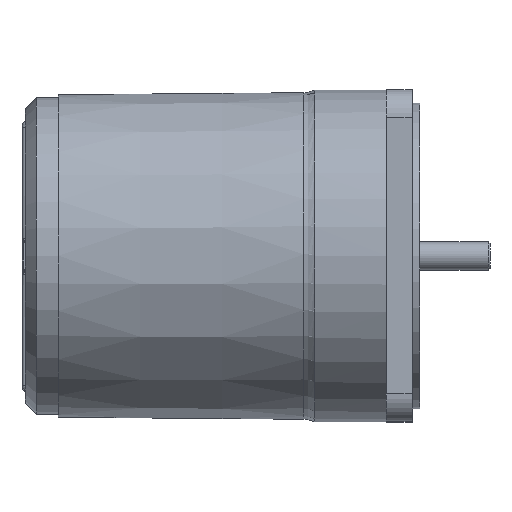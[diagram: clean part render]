
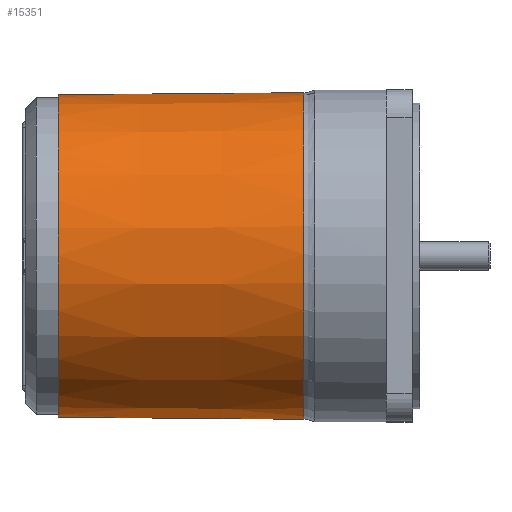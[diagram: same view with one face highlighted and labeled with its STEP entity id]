
A CAD part, top view. The second image highlights one B-rep face of the part: STEP entity #15351.
In plain terms, the highlighted conical face has half-angle 0.48 degrees and reference radius 44.029 mm.
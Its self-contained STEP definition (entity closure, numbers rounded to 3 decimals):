
#104=B_SPLINE_CURVE_WITH_KNOTS('',3,(#25532,#25533,#25534,#25535),
 .UNSPECIFIED.,.F.,.F.,(4,4),(3.256,3.306),
 .UNSPECIFIED.);
#105=B_SPLINE_CURVE_WITH_KNOTS('',3,(#25537,#25538,#25539,#25540),
 .UNSPECIFIED.,.F.,.F.,(4,4),(-3.256,0.),.UNSPECIFIED.);
#109=B_SPLINE_CURVE_WITH_KNOTS('',3,(#25619,#25620,#25621,#25622),
 .UNSPECIFIED.,.F.,.F.,(4,4),(-6.954,-3.698),
 .UNSPECIFIED.);
#110=B_SPLINE_CURVE_WITH_KNOTS('',3,(#25623,#25624,#25625,#25626),
 .UNSPECIFIED.,.F.,.F.,(4,4),(3.648,3.698),
 .UNSPECIFIED.);
#334=FACE_BOUND('',#2958,.T.);
#383=CONICAL_SURFACE('',#16677,44.029,0.48);
#1217=CIRCLE('',#16661,44.031);
#1225=CIRCLE('',#16678,44.308);
#1226=CIRCLE('',#16679,43.75);
#2012=FACE_OUTER_BOUND('',#2957,.T.);
#2957=EDGE_LOOP('',(#12330,#12331,#12332,#12333,#12334,#12335));
#2958=EDGE_LOOP('',(#12336));
#6774=VERTEX_POINT('',#25182);
#6780=VERTEX_POINT('',#25296);
#6795=VERTEX_POINT('',#25531);
#6796=VERTEX_POINT('',#25536);
#6801=VERTEX_POINT('',#25616);
#6802=VERTEX_POINT('',#25618);
#6806=VERTEX_POINT('',#25679);
#8671=EDGE_CURVE('',#6774,#6780,#1217,.T.);
#8694=EDGE_CURVE('',#6795,#6780,#104,.T.);
#8695=EDGE_CURVE('',#6795,#6796,#105,.T.);
#8705=EDGE_CURVE('',#6801,#6802,#109,.T.);
#8706=EDGE_CURVE('',#6774,#6802,#110,.T.);
#8713=EDGE_CURVE('',#6796,#6801,#1225,.T.);
#8714=EDGE_CURVE('',#6806,#6806,#1226,.T.);
#12330=ORIENTED_EDGE('',*,*,#8706,.T.);
#12331=ORIENTED_EDGE('',*,*,#8705,.F.);
#12332=ORIENTED_EDGE('',*,*,#8713,.F.);
#12333=ORIENTED_EDGE('',*,*,#8695,.F.);
#12334=ORIENTED_EDGE('',*,*,#8694,.T.);
#12335=ORIENTED_EDGE('',*,*,#8671,.F.);
#12336=ORIENTED_EDGE('',*,*,#8714,.T.);
#15351=ADVANCED_FACE('',(#2012,#334),#383,.T.);
#16661=AXIS2_PLACEMENT_3D('',#25297,#20161,#20162);
#16677=AXIS2_PLACEMENT_3D('',#25677,#20205,#20206);
#16678=AXIS2_PLACEMENT_3D('',#25678,#20207,#20208);
#16679=AXIS2_PLACEMENT_3D('',#25680,#20209,#20210);
#20161=DIRECTION('center_axis',(1.,0.,0.));
#20162=DIRECTION('ref_axis',(0.,0.,-1.));
#20205=DIRECTION('center_axis',(1.,0.,0.));
#20206=DIRECTION('ref_axis',(0.,1.,0.));
#20207=DIRECTION('center_axis',(1.,0.,0.));
#20208=DIRECTION('ref_axis',(0.,1.,0.));
#20209=DIRECTION('center_axis',(1.,0.,0.));
#20210=DIRECTION('ref_axis',(0.,1.,0.));
#25182=CARTESIAN_POINT('',(42.504,-29.21,-32.947));
#25296=CARTESIAN_POINT('',(42.504,29.21,-32.947));
#25297=CARTESIAN_POINT('Origin',(42.504,0.,
0.));
#25531=CARTESIAN_POINT('',(43.,29.21,-32.952));
#25532=CARTESIAN_POINT('Ctrl Pts',(43.,29.21,-32.952));
#25533=CARTESIAN_POINT('Ctrl Pts',(42.835,29.21,-32.95));
#25534=CARTESIAN_POINT('Ctrl Pts',(42.669,29.21,-32.949));
#25535=CARTESIAN_POINT('Ctrl Pts',(42.504,29.21,-32.947));
#25536=CARTESIAN_POINT('',(75.559,29.222,-33.306));
#25537=CARTESIAN_POINT('Ctrl Pts',(43.,29.21,-32.952));
#25538=CARTESIAN_POINT('Ctrl Pts',(53.853,29.214,-33.07));
#25539=CARTESIAN_POINT('Ctrl Pts',(64.706,29.218,-33.188));
#25540=CARTESIAN_POINT('Ctrl Pts',(75.559,29.222,-33.306));
#25616=CARTESIAN_POINT('',(75.559,-29.222,-33.306));
#25618=CARTESIAN_POINT('',(43.,-29.21,-32.952));
#25619=CARTESIAN_POINT('Ctrl Pts',(75.559,-29.222,-33.306));
#25620=CARTESIAN_POINT('Ctrl Pts',(64.706,-29.218,-33.188));
#25621=CARTESIAN_POINT('Ctrl Pts',(53.853,-29.214,-33.07));
#25622=CARTESIAN_POINT('Ctrl Pts',(43.,-29.21,-32.952));
#25623=CARTESIAN_POINT('Ctrl Pts',(42.504,-29.21,-32.947));
#25624=CARTESIAN_POINT('Ctrl Pts',(42.669,-29.21,-32.949));
#25625=CARTESIAN_POINT('Ctrl Pts',(42.835,-29.21,-32.95));
#25626=CARTESIAN_POINT('Ctrl Pts',(43.,-29.21,-32.952));
#25677=CARTESIAN_POINT('Origin',(42.279,0.,
0.));
#25678=CARTESIAN_POINT('Origin',(75.559,0.,
0.));
#25679=CARTESIAN_POINT('',(9.,43.75,0.));
#25680=CARTESIAN_POINT('Origin',(9.,0.,
0.));
